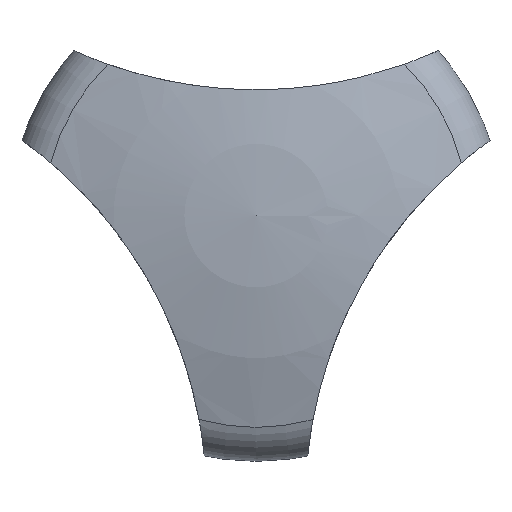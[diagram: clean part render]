
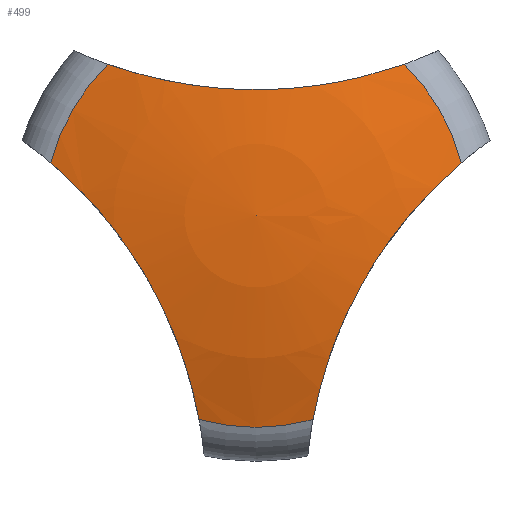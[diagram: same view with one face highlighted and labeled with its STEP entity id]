
A CAD part, top view. The second image highlights one B-rep face of the part: STEP entity #499.
In plain terms, the highlighted spherical face has radius 70 mm.
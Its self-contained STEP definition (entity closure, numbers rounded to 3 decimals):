
#302=CARTESIAN_POINT('',(-15.067,15.395,30.903));
#303=VERTEX_POINT('',#302);
#304=CARTESIAN_POINT('',(-20.866,5.351,30.903));
#305=VERTEX_POINT('',#304);
#306=CARTESIAN_POINT('',(0.,0.,30.903));
#307=DIRECTION('',(-0.699,0.715,0.));
#308=DIRECTION('',(0.,0.,1.));
#309=AXIS2_PLACEMENT_3D('',#306,#308,#307);
#310=CIRCLE('',#309,21.541);
#311=EDGE_CURVE('',#303,#305,#310,.T.);
#349=CARTESIAN_POINT('',(20.866,5.351,30.903));
#350=VERTEX_POINT('',#349);
#364=CARTESIAN_POINT('',(15.067,15.395,30.903));
#365=VERTEX_POINT('',#364);
#366=CARTESIAN_POINT('',(0.,0.,30.903));
#367=DIRECTION('',(0.969,0.248,0.));
#368=DIRECTION('',(0.,0.,1.));
#369=AXIS2_PLACEMENT_3D('',#366,#368,#367);
#370=CIRCLE('',#369,21.541);
#371=EDGE_CURVE('',#350,#365,#370,.T.);
#394=CARTESIAN_POINT('',(-5.799,-20.746,30.903));
#395=VERTEX_POINT('',#394);
#396=CARTESIAN_POINT('',(5.799,-20.746,30.903));
#397=VERTEX_POINT('',#396);
#398=CARTESIAN_POINT('',(0.,0.,30.903));
#399=DIRECTION('',(-0.269,-0.963,0.));
#400=DIRECTION('',(-0.,0.,1.));
#401=AXIS2_PLACEMENT_3D('',#398,#400,#399);
#402=CIRCLE('',#401,21.541);
#403=EDGE_CURVE('',#395,#397,#402,.T.);
#435=CARTESIAN_POINT('',(0.,0.,-35.7));
#436=DIRECTION('',(1.,0.,0.));
#437=DIRECTION('',(0.,0.,1.));
#438=AXIS2_PLACEMENT_3D('',#435,#437,#436);
#439=SPHERICAL_SURFACE('',#438,70.);
#440=CARTESIAN_POINT('',(15.56,0.,32.549));
#441=VERTEX_POINT('',#440);
#442=CARTESIAN_POINT('',(0.,0.,34.3));
#443=VERTEX_POINT('',#442);
#444=CARTESIAN_POINT('',(0.,0.,-35.7));
#445=DIRECTION('',(0.222,0.,0.975));
#446=DIRECTION('',(-0.,-1.,0.));
#447=AXIS2_PLACEMENT_3D('',#444,#446,#445);
#448=CIRCLE('',#447,70.);
#449=EDGE_CURVE('',#441,#443,#448,.T.);
#450=ORIENTED_EDGE('E6',*,*,#449,.F.);
#451=CARTESIAN_POINT('',(15.56,0.,32.549));
#452=CARTESIAN_POINT('',(15.475,-0.101,32.568));
#453=CARTESIAN_POINT('',(15.221,-0.407,32.625));
#454=CARTESIAN_POINT('',(14.971,-0.716,32.677));
#455=CARTESIAN_POINT('',(11.751,-4.773,33.319));
#456=CARTESIAN_POINT('',(8.105,-11.354,33.213));
#457=CARTESIAN_POINT('',(6.23,-18.405,31.595));
#458=CARTESIAN_POINT('',(5.799,-20.746,30.903));
#459=B_SPLINE_CURVE_WITH_KNOTS('',3,(#451,#452,#453,#454,#455,#456,#457,#458),.UNSPECIFIED.,.F.,.U.,(4,1,2,1,4),(0.,0.018,0.054,0.721,1.054),.UNSPECIFIED.);
#460=EDGE_CURVE('',#441,#397,#459,.T.);
#461=ORIENTED_EDGE('E37',*,*,#460,.T.);
#462=ORIENTED_EDGE('E37',*,*,#403,.F.);
#463=CARTESIAN_POINT('',(-5.799,-20.746,30.903));
#464=CARTESIAN_POINT('',(-5.939,-19.983,31.129));
#465=CARTESIAN_POINT('',(-6.423,-17.69,31.756));
#466=CARTESIAN_POINT('',(-7.095,-15.407,32.233));
#467=CARTESIAN_POINT('',(-9.379,-8.944,33.295));
#468=CARTESIAN_POINT('',(-13.381,-1.888,33.35));
#469=CARTESIAN_POINT('',(-18.918,3.691,31.647));
#470=CARTESIAN_POINT('',(-20.866,5.351,30.903));
#471=B_SPLINE_CURVE_WITH_KNOTS('',3,(#463,#464,#465,#466,#467,#468,#469,#470),.UNSPECIFIED.,.F.,.U.,(4,1,2,1,4),(0.,0.101,0.304,0.97,1.304),.UNSPECIFIED.);
#472=EDGE_CURVE('',#395,#305,#471,.T.);
#473=ORIENTED_EDGE('E31',*,*,#472,.T.);
#474=ORIENTED_EDGE('E31',*,*,#311,.F.);
#475=CARTESIAN_POINT('',(-15.067,15.395,30.903));
#476=CARTESIAN_POINT('',(-14.295,15.121,31.141));
#477=CARTESIAN_POINT('',(-11.942,14.356,31.801));
#478=CARTESIAN_POINT('',(-9.494,13.778,32.292));
#479=CARTESIAN_POINT('',(-2.736,12.584,33.304));
#480=CARTESIAN_POINT('',(5.232,12.572,33.317));
#481=CARTESIAN_POINT('',(12.696,14.552,31.634));
#482=CARTESIAN_POINT('',(15.067,15.395,30.903));
#483=B_SPLINE_CURVE_WITH_KNOTS('',3,(#475,#476,#477,#478,#479,#480,#481,#482),.UNSPECIFIED.,.F.,.U.,(4,1,2,1,4),(0.,0.109,0.326,0.993,1.326),.UNSPECIFIED.);
#484=EDGE_CURVE('',#303,#365,#483,.T.);
#485=ORIENTED_EDGE('E25',*,*,#484,.T.);
#486=ORIENTED_EDGE('E25',*,*,#371,.F.);
#487=CARTESIAN_POINT('',(20.866,5.351,30.903));
#488=CARTESIAN_POINT('',(20.786,5.283,30.934));
#489=CARTESIAN_POINT('',(19.454,4.14,31.438));
#490=CARTESIAN_POINT('',(17.645,2.395,32.033));
#491=CARTESIAN_POINT('',(16.036,0.568,32.44));
#492=CARTESIAN_POINT('',(15.56,0.,32.549));
#493=B_SPLINE_CURVE_WITH_KNOTS('',3,(#487,#488,#489,#490,#491,#492),.UNSPECIFIED.,.F.,.U.,(4,1,1,4),(0.,0.049,0.813,1.146),.UNSPECIFIED.);
#494=EDGE_CURVE('',#350,#441,#493,.T.);
#495=ORIENTED_EDGE('E38',*,*,#494,.T.);
#496=ORIENTED_EDGE('E38',*,*,#449,.T.);
#497=EDGE_LOOP('',(#450,#461,#462,#473,#474,#485,#486,#495,#496));
#498=FACE_OUTER_BOUND('',#497,.F.);
#499=ADVANCED_FACE('F6',(#498),#439,.T.);
